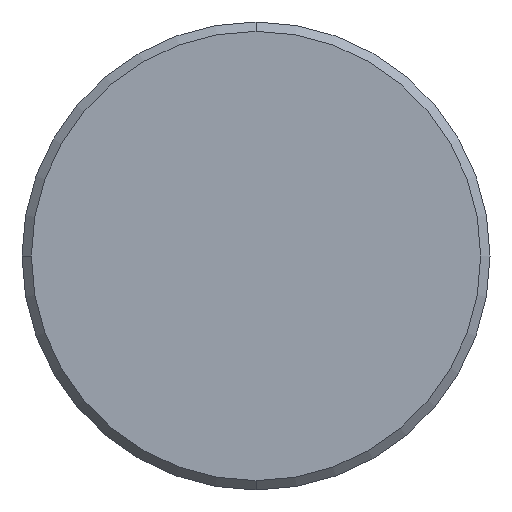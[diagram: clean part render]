
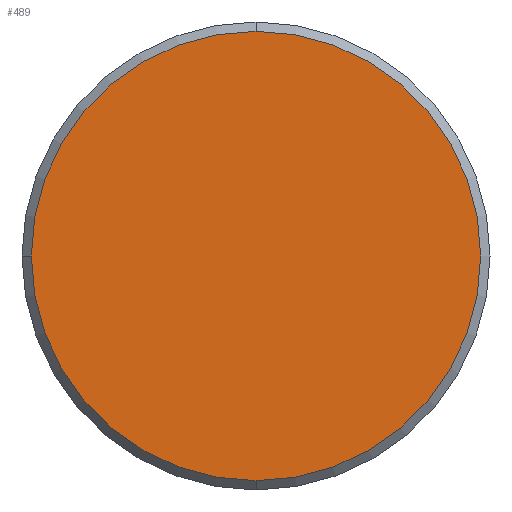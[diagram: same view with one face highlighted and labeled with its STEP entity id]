
A CAD part, left-side view. The second image highlights one B-rep face of the part: STEP entity #489.
In plain terms, the highlighted planar face has unit normal (-1, 0, 0).
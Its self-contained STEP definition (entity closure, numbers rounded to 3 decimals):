
#12 = VERTEX_POINT ( 'NONE', #970 ) ;
#15 = VERTEX_POINT ( 'NONE', #973 ) ;
#103 = VERTEX_POINT ( 'NONE', #1000 ) ;
#129 = ORIENTED_EDGE ( 'NONE', *, *, #1154, .F. ) ;
#263 = CARTESIAN_POINT ( 'NONE',  ( 0., 0., 0. ) ) ;
#264 = DIRECTION ( 'NONE',  ( 1., 0., 0. ) ) ;
#265 = DIRECTION ( 'NONE',  ( 0., 1., 0. ) ) ;
#314 = CARTESIAN_POINT ( 'NONE',  ( 0., 0., 0. ) ) ;
#315 = DIRECTION ( 'NONE',  ( 1., 0., 0. ) ) ;
#316 = DIRECTION ( 'NONE',  ( 0., 1., 0. ) ) ;
#399 = CARTESIAN_POINT ( 'NONE',  ( 0., 0., 0. ) ) ;
#400 = DIRECTION ( 'NONE',  ( 1., 0., 0. ) ) ;
#401 = DIRECTION ( 'NONE',  ( 0., 0., -1. ) ) ;
#489 = ADVANCED_FACE ( 'NONE', ( #887 ), #888, .F. ) ;
#806 = CIRCLE ( 'NONE', #828, 12. ) ;
#808 = CIRCLE ( 'NONE', #822, 12. ) ;
#822 = AXIS2_PLACEMENT_3D ( 'NONE', #314, #315, #316 ) ;
#828 = AXIS2_PLACEMENT_3D ( 'NONE', #399, #400, #401 ) ;
#887 = FACE_OUTER_BOUND ( 'NONE', #1712, .T. ) ;
#888 = PLANE ( 'NONE',  #1164 ) ;
#889 = CARTESIAN_POINT ( 'NONE',  ( 0., -12.65, 12.65 ) ) ;
#890 = DIRECTION ( 'NONE',  ( 1., 0., 0. ) ) ;
#891 = DIRECTION ( 'NONE',  ( 0., 0., -1. ) ) ;
#970 = CARTESIAN_POINT ( 'NONE',  ( 0., 0., -12. ) ) ;
#973 = CARTESIAN_POINT ( 'NONE',  ( 0., 12., 0. ) ) ;
#1000 = CARTESIAN_POINT ( 'NONE',  ( 0., 0., 12. ) ) ;
#1055 = EDGE_CURVE ( 'NONE', #12, #15, #808, .T. ) ;
#1084 = EDGE_CURVE ( 'NONE', #103, #12, #806, .T. ) ;
#1154 = EDGE_CURVE ( 'NONE', #15, #103, #1953, .T. ) ;
#1164 = AXIS2_PLACEMENT_3D ( 'NONE', #889, #890, #891 ) ;
#1314 = ORIENTED_EDGE ( 'NONE', *, *, #1084, .F. ) ;
#1360 = ORIENTED_EDGE ( 'NONE', *, *, #1055, .F. ) ;
#1712 = EDGE_LOOP ( 'NONE', ( #1314, #129, #1360 ) ) ;
#1953 = CIRCLE ( 'NONE', #1966, 12. ) ;
#1966 = AXIS2_PLACEMENT_3D ( 'NONE', #263, #264, #265 ) ;
